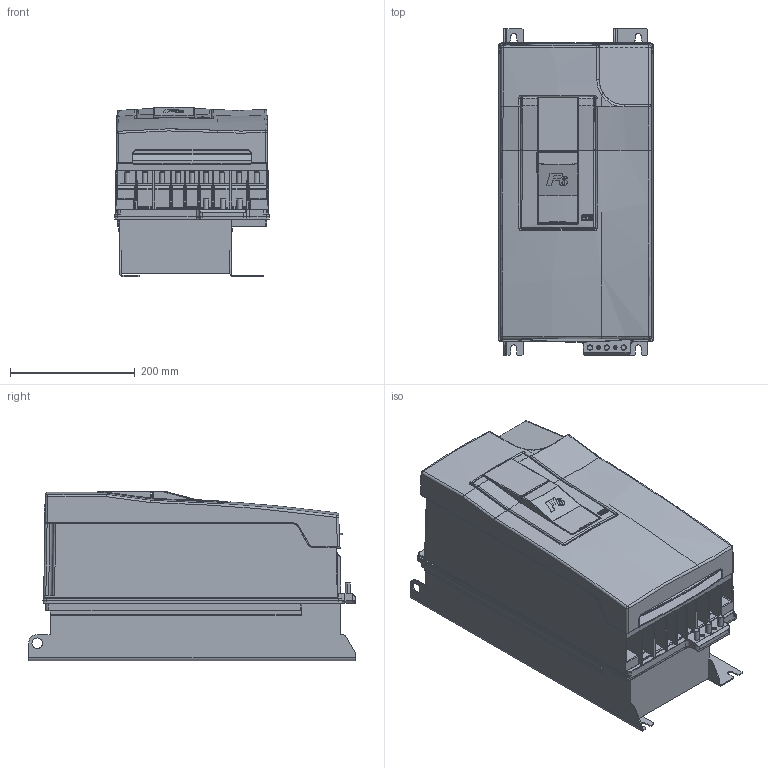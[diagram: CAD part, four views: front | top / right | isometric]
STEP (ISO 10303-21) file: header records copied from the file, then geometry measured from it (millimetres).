
FILE_DESCRIPTION (( 'STEP AP214' ), '1' );
FILE_NAME ('F6-6 TR0-P150.STEP', '2020-12-09T10:03:45', ( '' ), ( '' ), 'SwSTEP 2.0', 'SolidWorks 2019', '' );
FILE_SCHEMA (( 'AUTOMOTIVE_DESIGN' ));
Length unit declared in the file: millimetre
Products named in the file (11): 10059762_000_Kundenmodell mit Geberbuchsen; 10059764_000_Blindabdeckung (Kundenmodell); 10051076_000_Kundenmodell; 10061887_000; 10061794_000; 10027052_000_Geh„usebaugruppe F6-6 (Kundenmodell); F6-6 TR0-P150; 10028354_000_Basis Leistungsteil F6-6 TR0 (Kundenmodell); 10059765_000; 10061793_000_Deckelbaugruppe F6-6 (Kundenmodell); 10060787_000
Assembly tree (10 placements, depth 4):
  F6-6 TR0-P150
    10028354_000_Basis Leistungsteil F6-6 TR0 (Kundenmodell)
      10061887_000
    10027052_000_Geh„usebaugruppe F6-6 (Kundenmodell)
      10061793_000_Deckelbaugruppe F6-6 (Kundenmodell)
        10061794_000
      10060787_000
    10051076_000_Kundenmodell
      10059764_000_Blindabdeckung (Kundenmodell)
        10059765_000
      10059762_000_Kundenmodell mit Geberbuchsen
Bounding box: 249 x 525 x 271.9 mm (x, y, z)
Volume: 25428161.7 mm3; surface area: 1368625.6 mm2
Topology: 12 solids, 19 shells, 2788 faces, 7020 edges, 4184 vertices
Faces by surface type: cylinder 980, plane 961, bspline 559, torus 110, sphere 108, cone 70
Entity records: 94397 total; most frequent: CARTESIAN_POINT 32575, ORIENTED_EDGE 13744, DIRECTION 11851, EDGE_CURVE 6872, AXIS2_PLACEMENT_3D 4193, VERTEX_POINT 4182, LINE 3465, VECTOR 3465
